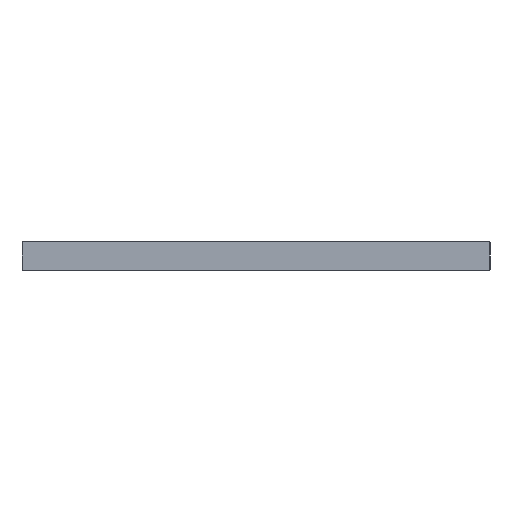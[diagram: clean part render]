
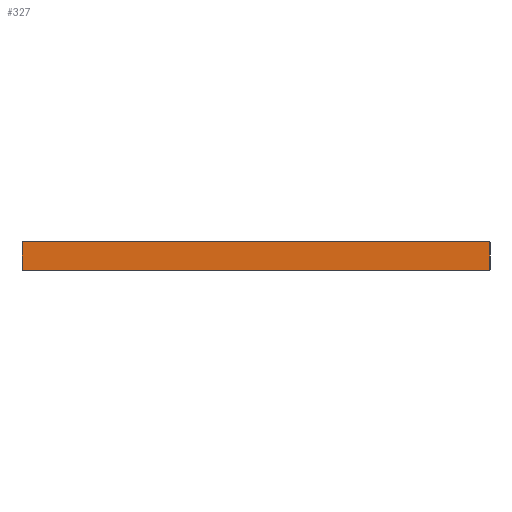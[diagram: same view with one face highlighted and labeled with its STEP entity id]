
A CAD part, left-side view. The second image highlights one B-rep face of the part: STEP entity #327.
In plain terms, the highlighted planar face has unit normal (-1, 0, 0).
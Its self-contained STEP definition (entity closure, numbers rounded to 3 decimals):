
#1 = DIRECTION ( 'NONE',  ( 0., 0., 1. ) ) ;
#3 = CARTESIAN_POINT ( 'NONE',  ( 0., 79.75, 4.75 ) ) ;
#7 = EDGE_LOOP ( 'NONE', ( #329, #23, #164, #212, #66, #48, #99, #245 ) ) ;
#11 = CARTESIAN_POINT ( 'NONE',  ( 0., 80., 4.75 ) ) ;
#19 = VERTEX_POINT ( 'NONE', #118 ) ;
#23 = ORIENTED_EDGE ( 'NONE', *, *, #288, .F. ) ;
#25 = CARTESIAN_POINT ( 'NONE',  ( 0., 0., 0. ) ) ;
#27 = DIRECTION ( 'NONE',  ( 1., 0., 0. ) ) ;
#46 = CIRCLE ( 'NONE', #256, 0.25 ) ;
#48 = ORIENTED_EDGE ( 'NONE', *, *, #276, .F. ) ;
#55 = DIRECTION ( 'NONE',  ( 0., 0., 1. ) ) ;
#64 = DIRECTION ( 'NONE',  ( 1., 0., 0. ) ) ;
#65 = DIRECTION ( 'NONE',  ( 1., 0., 0. ) ) ;
#66 = ORIENTED_EDGE ( 'NONE', *, *, #321, .F. ) ;
#69 = CARTESIAN_POINT ( 'NONE',  ( 0., 0., 0.25 ) ) ;
#74 = VERTEX_POINT ( 'NONE', #300 ) ;
#77 = VERTEX_POINT ( 'NONE', #315 ) ;
#78 = DIRECTION ( 'NONE',  ( 0., 0., 1. ) ) ;
#87 = VECTOR ( 'NONE', #254, 1000. ) ;
#96 = VERTEX_POINT ( 'NONE', #317 ) ;
#99 = ORIENTED_EDGE ( 'NONE', *, *, #185, .F. ) ;
#118 = CARTESIAN_POINT ( 'NONE',  ( 0., 0., 4.75 ) ) ;
#121 = CARTESIAN_POINT ( 'NONE',  ( 0., 0., 0. ) ) ;
#126 = LINE ( 'NONE', #286, #192 ) ;
#129 = LINE ( 'NONE', #121, #134 ) ;
#134 = VECTOR ( 'NONE', #162, 1000. ) ;
#135 = LINE ( 'NONE', #230, #87 ) ;
#142 = LINE ( 'NONE', #323, #202 ) ;
#145 = CIRCLE ( 'NONE', #211, 0.25 ) ;
#152 = CARTESIAN_POINT ( 'NONE',  ( 0., 79.75, 0.25 ) ) ;
#162 = DIRECTION ( 'NONE',  ( 0., 0., -1. ) ) ;
#164 = ORIENTED_EDGE ( 'NONE', *, *, #233, .F. ) ;
#167 = VERTEX_POINT ( 'NONE', #11 ) ;
#170 = DIRECTION ( 'NONE',  ( 1., 0., 0. ) ) ;
#171 = VERTEX_POINT ( 'NONE', #324 ) ;
#177 = CIRCLE ( 'NONE', #238, 0.25 ) ;
#178 = AXIS2_PLACEMENT_3D ( 'NONE', #25, #64, #274 ) ;
#185 = EDGE_CURVE ( 'NONE', #167, #341, #46, .T. ) ;
#187 = CIRCLE ( 'NONE', #244, 0.25 ) ;
#188 = DIRECTION ( 'NONE',  ( 0., -1., 0. ) ) ;
#192 = VECTOR ( 'NONE', #188, 1000. ) ;
#198 = DIRECTION ( 'NONE',  ( 0., 0., 1. ) ) ;
#199 = PLANE ( 'NONE',  #178 ) ;
#202 = VECTOR ( 'NONE', #198, 1000. ) ;
#203 = VERTEX_POINT ( 'NONE', #69 ) ;
#211 = AXIS2_PLACEMENT_3D ( 'NONE', #232, #27, #258 ) ;
#212 = ORIENTED_EDGE ( 'NONE', *, *, #279, .F. ) ;
#220 = DIRECTION ( 'NONE',  ( 1., 0., 0. ) ) ;
#226 = EDGE_CURVE ( 'NONE', #74, #171, #187, .T. ) ;
#230 = CARTESIAN_POINT ( 'NONE',  ( 0., 0., 0. ) ) ;
#232 = CARTESIAN_POINT ( 'NONE',  ( 0., 0.25, 4.75 ) ) ;
#233 = EDGE_CURVE ( 'NONE', #203, #77, #177, .T. ) ;
#234 = CARTESIAN_POINT ( 'NONE',  ( 0., 0.25, 0.25 ) ) ;
#238 = AXIS2_PLACEMENT_3D ( 'NONE', #234, #170, #1 ) ;
#244 = AXIS2_PLACEMENT_3D ( 'NONE', #152, #220, #55 ) ;
#245 = ORIENTED_EDGE ( 'NONE', *, *, #294, .F. ) ;
#254 = DIRECTION ( 'NONE',  ( 0., 1., 0. ) ) ;
#256 = AXIS2_PLACEMENT_3D ( 'NONE', #3, #65, #78 ) ;
#258 = DIRECTION ( 'NONE',  ( 0., 0., 1. ) ) ;
#268 = CARTESIAN_POINT ( 'NONE',  ( 0., 79.75, 5. ) ) ;
#274 = DIRECTION ( 'NONE',  ( 0., 0., -1. ) ) ;
#276 = EDGE_CURVE ( 'NONE', #341, #96, #126, .T. ) ;
#279 = EDGE_CURVE ( 'NONE', #19, #203, #129, .T. ) ;
#286 = CARTESIAN_POINT ( 'NONE',  ( 0., 80., 5. ) ) ;
#288 = EDGE_CURVE ( 'NONE', #77, #74, #135, .T. ) ;
#294 = EDGE_CURVE ( 'NONE', #171, #167, #142, .T. ) ;
#300 = CARTESIAN_POINT ( 'NONE',  ( 0., 79.75, 0. ) ) ;
#310 = FACE_OUTER_BOUND ( 'NONE', #7, .T. ) ;
#315 = CARTESIAN_POINT ( 'NONE',  ( 0., 0.25, 0. ) ) ;
#317 = CARTESIAN_POINT ( 'NONE',  ( 0., 0.25, 5. ) ) ;
#321 = EDGE_CURVE ( 'NONE', #96, #19, #145, .T. ) ;
#323 = CARTESIAN_POINT ( 'NONE',  ( 0., 80., 0. ) ) ;
#324 = CARTESIAN_POINT ( 'NONE',  ( 0., 80., 0.25 ) ) ;
#327 = ADVANCED_FACE ( 'NONE', ( #310 ), #199, .F. ) ;
#329 = ORIENTED_EDGE ( 'NONE', *, *, #226, .F. ) ;
#341 = VERTEX_POINT ( 'NONE', #268 ) ;
